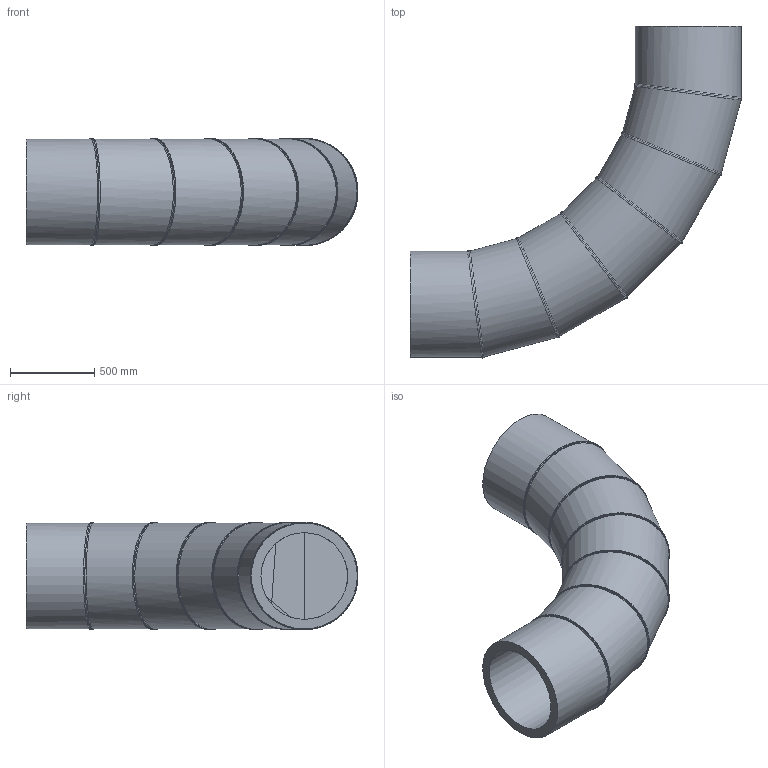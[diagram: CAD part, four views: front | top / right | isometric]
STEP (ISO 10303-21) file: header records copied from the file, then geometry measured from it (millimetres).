
FILE_DESCRIPTION(/* description */ ('Unknown'),/* implementation_level */ '2;1');
FILE_NAME(/* name */ 'Curva 90° a settore DE630 SDR11',/* time_stamp */ '2022-07-27T09:14:20+02:00',/* author */ ('Unknown'),/* organization */ ('Unknown'),/* preprocessor_version */ 'ST-DEVELOPER v18.102',/* originating_system */ 'Solid Edge',/* authorisation */ 'Unknown');
FILE_SCHEMA (('AUTOMOTIVE_DESIGN {1 0 10303 214 3 1 1}'));
Length unit declared in the file: millimetre
Products named in the file (3): Curva 90° a settore DE630 SDR11; Tubo x Gomito 90° DE630 SDR11 - 2; Tubo x Gomito 90° DE630 SDR11 - 1
Assembly tree (7 placements, depth 2):
  Curva 90° a settore DE630 SDR11
    Tubo x Gomito 90° DE630 SDR11 - 2  x5
    Tubo x Gomito 90° DE630 SDR11 - 1  x2
Bounding box: 1973.35 x 1973.35 x 637.99 mm (x, y, z)
Volume: 278276340.7 mm3; surface area: 11271917.8 mm2
Topology: 7 solids, 7 shells, 64 faces, 143 edges, 93 vertices
Faces by surface type: cylinder 38, plane 14, bspline 12
Full cylindrical faces by diameter (mm): 515.6 x7, 630 x7
Entity records: 3446 total; most frequent: CARTESIAN_POINT 3023, DIRECTION 78, ORIENTED_EDGE 52, AXIS2_PLACEMENT_3D 39, EDGE_LOOP 28, FACE_BOUND 28, EDGE_CURVE 26, VERTEX_POINT 20
